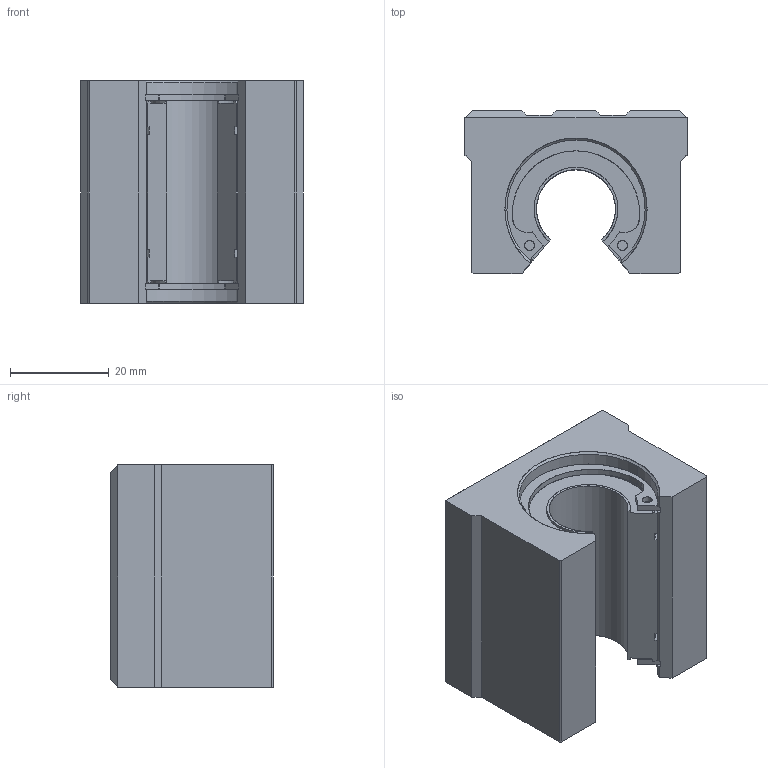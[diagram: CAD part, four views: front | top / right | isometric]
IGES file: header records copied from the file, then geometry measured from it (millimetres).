
Start section: SolidWorks IGES file using analytic representation for surfaces
Global section: file name: D:\SOLIDWORKS PROEKTI\freelance cnc cat\VTORA SERIJA\SBR-UU\SBR16UU.IGS; native system: SolidWorks 2016; preprocessor: SolidWorks 2016; author: User; date: 170806.130407; units: millimetre
Bounding box: 45 x 33 x 45 mm (x, y, z)
Surface area: 18010.8 mm2 (no closed solid volume)
Topology: 0 solids, 0 shells, 327 faces, 7854 edges, 9612 vertices
Faces by surface type: bspline 222, revolution 105
